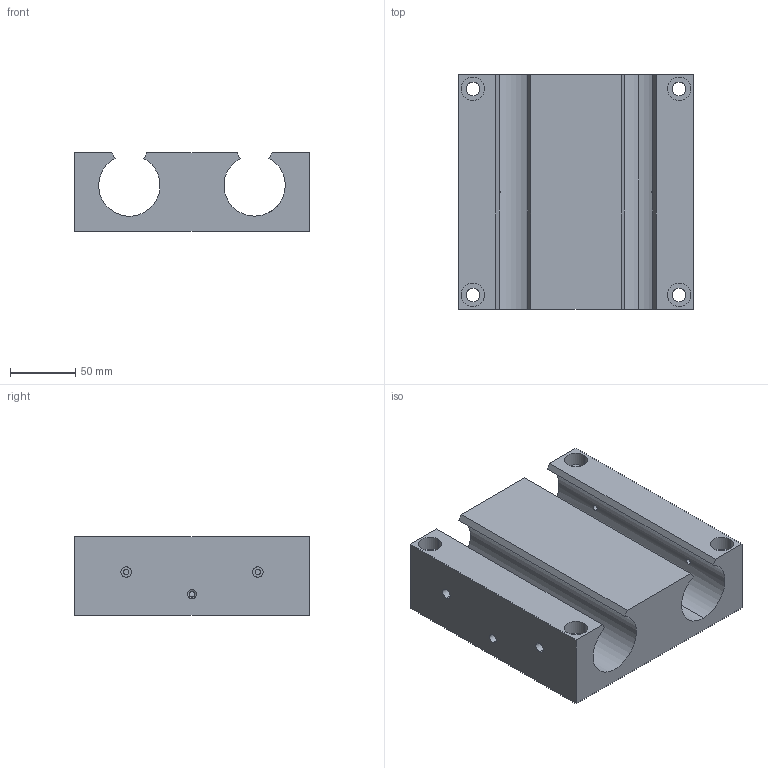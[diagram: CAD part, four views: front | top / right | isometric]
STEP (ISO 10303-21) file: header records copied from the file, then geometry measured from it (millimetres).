
FILE_DESCRIPTION (( 'STEP AP214' ), '1' );
FILE_NAME ('KQSO-30.step', '2020-03-04T13:36:06', ( '' ), ( '' ), 'SwSTEP 2.0', 'SolidWorks 2019', '' );
FILE_SCHEMA (( 'AUTOMOTIVE_DESIGN' ));
Length unit declared in the file: millimetre
Products named in the file (1): KQSO-30
Bounding box: 180 x 180 x 60 mm (x, y, z)
Volume: 1264908.2 mm3; surface area: 150105.5 mm2
Topology: 1 solids, 1 shells, 85 faces, 201 edges, 129 vertices
Faces by surface type: cylinder 53, plane 24, cone 8
Entity records: 3069 total; most frequent: CARTESIAN_POINT 752, DIRECTION 455, ORIENTED_EDGE 398, EDGE_CURVE 199, AXIS2_PLACEMENT_3D 182, VERTEX_POINT 129, EDGE_LOOP 118, CIRCLE 96
